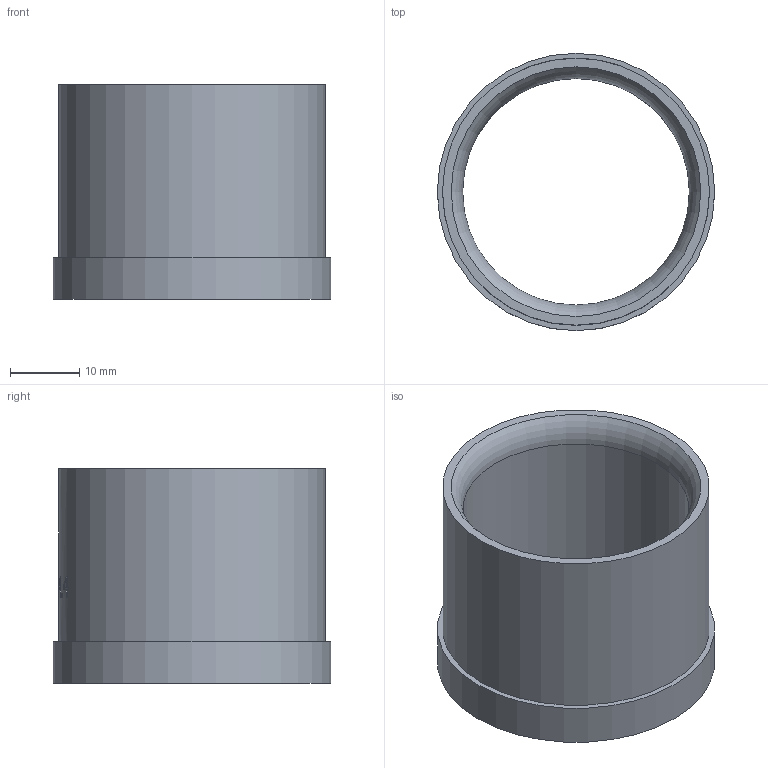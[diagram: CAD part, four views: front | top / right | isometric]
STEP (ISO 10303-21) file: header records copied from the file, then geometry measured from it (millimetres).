
FILE_DESCRIPTION(/* description */ (''),/* implementation_level */ '2;1');
FILE_NAME(/* name */ 'C:\Users\Doom\Desktop\Фадотех\Натяжка\SFG-04 NEW Model 14.03.2020\SFG-04 NEW Model 14.03.2020.stp',/* time_stamp */ '2022-07-25T12:23:31+03:00',/* author */ ('Doom'),/* organization */ (''),/* preprocessor_version */ 'ST-DEVELOPER v18',/* originating_system */ 'Autodesk Inventor 2020',/* authorisation */ '');
FILE_SCHEMA (('AUTOMOTIVE_DESIGN { 1 0 10303 214 3 1 1 }'));
Length unit declared in the file: millimetre
Products named in the file (1): SFG-04 NEW Model 14.03.2020
Bounding box: 40 x 40 x 31 mm (x, y, z)
Volume: 10115.1 mm3; surface area: 7765.9 mm2
Topology: 1 solids, 1 shells, 105 faces, 288 edges, 195 vertices
Faces by surface type: plane 46, bspline 46, cylinder 11, cone 1, torus 1
Full cylindrical faces by diameter (mm): 32.7 x1, 38.5 x1, 40 x1
Entity records: 4391 total; most frequent: CARTESIAN_POINT 1915, ORIENTED_EDGE 576, DIRECTION 378, EDGE_CURVE 288, VERTEX_POINT 195, LINE 134, VECTOR 134, AXIS2_PLACEMENT_3D 122
